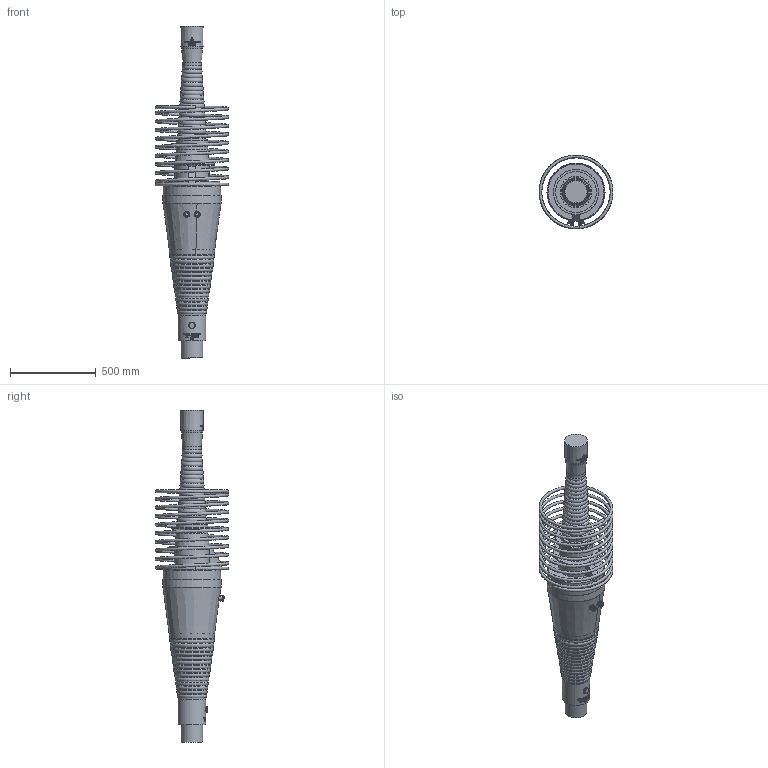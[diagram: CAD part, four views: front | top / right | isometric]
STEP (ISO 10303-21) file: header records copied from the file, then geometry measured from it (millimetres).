
FILE_DESCRIPTION(/* description */ (''),/* implementation_level */ '2;1');
FILE_NAME(/* name */ 'Z:\IDA\BBV\DE\410 Technik_Zulassungen-Verfahren\21 BBV - Hompage\Dateien für Vito Mediavilla\BBV LITZENSPANNVERFAHREN MIT VERBUND\FÜK - feste Übergreifungskopplung\Z-13.1-114.FÜK.022.00 FÜK L22i.stp',/* time_stamp */ '2023-08-21T15:16:21+02:00',/* author */ ('klukas'),/* organization */ (''),/* preprocessor_version */ 'ST-DEVELOPER v18.1',/* originating_system */ 'Autodesk Inventor 2021',/* authorisation */ '');
FILE_SCHEMA (('AUTOMOTIVE_DESIGN { 1 0 10303 214 3 1 1 }'));
Products named in the file (1): Z-13.1-114.FÜK.022.00 FÜK L22i
Bounding box: 429.95 x 429.97 x 1936.6 mm (x, y, z)
Volume: 51147656.9 mm3; surface area: 2990299.6 mm2
Topology: 7 solids, 7 shells, 796 faces, 2112 edges, 1388 vertices
Faces by surface type: bspline 344, plane 285, cylinder 85, cone 50, torus 32
Full cylindrical faces by diameter (mm): 28 x14, 32 x1, 33 x2, 39 x1, 109 x1, 128 x1, 160 x1, 162 x1, 163 x3, 184.177 x1, 185.128 x1, 238 x1, 245 x2, 248 x1, 263 x1, 265 x1, 335 x2, 336 x1, 339 x1
Entity records: 93378 total; most frequent: CARTESIAN_POINT 74991, ORIENTED_EDGE 4228, DIRECTION 2605, EDGE_CURVE 2114, VERTEX_POINT 1388, AXIS2_PLACEMENT_3D 905, EDGE_LOOP 870, B_SPLINE_CURVE_WITH_KNOTS 865
